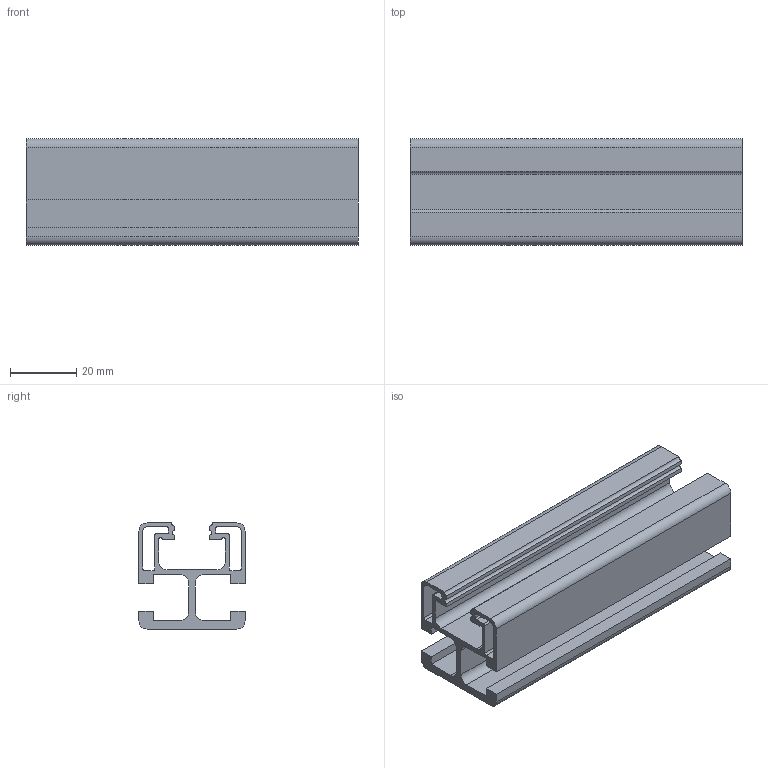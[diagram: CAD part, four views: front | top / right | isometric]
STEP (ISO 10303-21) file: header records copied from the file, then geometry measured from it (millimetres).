
FILE_DESCRIPTION (( 'STEP AP214' ), '1' );
FILE_NAME ('084.106.006.STEP', '2020-07-23T08:08:19', ( '' ), ( '' ), 'SwSTEP 2.0', 'SolidWorks 2018', '' );
FILE_SCHEMA (( 'AUTOMOTIVE_DESIGN' ));
Length unit declared in the file: millimetre
Products named in the file (1): 084.106.006
Bounding box: 100 x 32 x 32 mm (x, y, z)
Volume: 31114.7 mm3; surface area: 33542.6 mm2
Topology: 1 solids, 1 shells, 74 faces, 216 edges, 144 vertices
Faces by surface type: plane 44, cylinder 30
Entity records: 2502 total; most frequent: CARTESIAN_POINT 435, ORIENTED_EDGE 432, DIRECTION 426, EDGE_CURVE 216, LINE 156, VECTOR 156, VERTEX_POINT 144, AXIS2_PLACEMENT_3D 135
